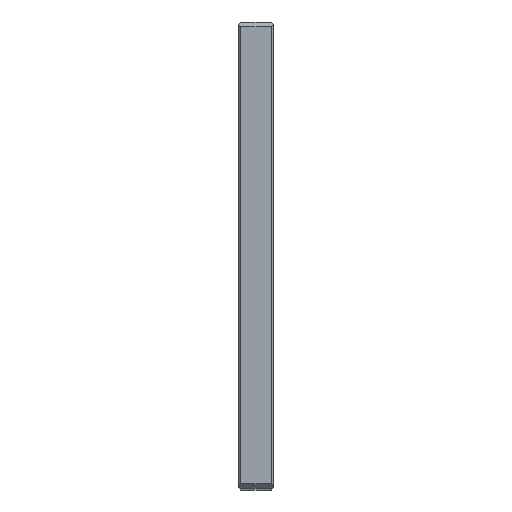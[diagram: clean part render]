
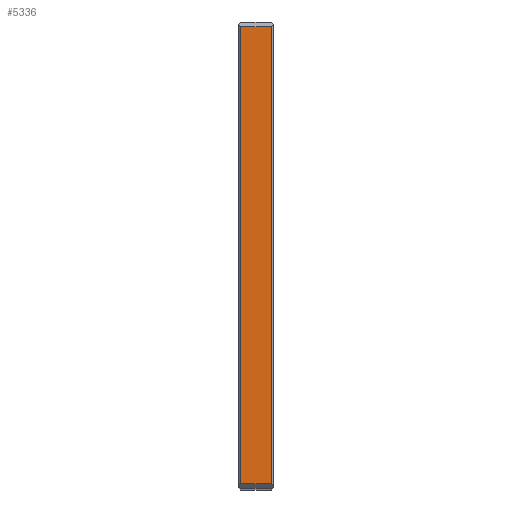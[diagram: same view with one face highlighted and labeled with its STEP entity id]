
A CAD part, top view. The second image highlights one B-rep face of the part: STEP entity #5336.
In plain terms, the highlighted planar face has unit normal (0, 0, 1).
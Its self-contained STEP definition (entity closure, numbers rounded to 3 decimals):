
#1570=FACE_OUTER_BOUND($,#2233,.T.);
#2233=EDGE_LOOP($,(#4507,#4508,#4509,#4510));
#3016=LINE($,#8549,#3056);
#3024=LINE($,#8822,#3064);
#3029=LINE($,#8832,#3069);
#3047=LINE($,#9124,#3087);
#3056=VECTOR($,#6662,13.);
#3064=VECTOR($,#6932,196.);
#3069=VECTOR($,#6939,13.);
#3087=VECTOR($,#7231,196.);
#3095=VERTEX_POINT($,#8546);
#3096=VERTEX_POINT($,#8548);
#3230=VERTEX_POINT($,#8820);
#3234=VERTEX_POINT($,#8830);
#3636=EDGE_CURVE($,#3095,#3096,#3016,.T.);
#3773=EDGE_CURVE($,#3230,#3095,#3024,.T.);
#3778=EDGE_CURVE($,#3234,#3230,#3029,.T.);
#3925=EDGE_CURVE($,#3096,#3234,#3047,.T.);
#4507=ORIENTED_EDGE($,*,*,#3773,.F.);
#4508=ORIENTED_EDGE($,*,*,#3778,.F.);
#4509=ORIENTED_EDGE($,*,*,#3925,.F.);
#4510=ORIENTED_EDGE($,*,*,#3636,.F.);
#5313=PLANE($,#6002);
#5336=ADVANCED_FACE($,(#1570),#5313,.T.);
#6002=AXIS2_PLACEMENT_3D($,#9129,#7236,#7237);
#6662=DIRECTION($,(1.,0.,0.));
#6932=DIRECTION($,(0.,1.,0.));
#6939=DIRECTION($,(-1.,0.,0.));
#7231=DIRECTION($,(0.,-1.,0.));
#7236=DIRECTION('center_axis',(0.,0.,1.));
#7237=DIRECTION('ref_axis',(0.,-1.,0.));
#8546=CARTESIAN_POINT('',(1.,198.,400.));
#8548=CARTESIAN_POINT('',(14.,198.,400.));
#8549=CARTESIAN_POINT($,(0.,198.,400.));
#8820=CARTESIAN_POINT('',(1.,2.,400.));
#8822=CARTESIAN_POINT($,(1.,150.,400.));
#8830=CARTESIAN_POINT('',(14.,2.,400.));
#8832=CARTESIAN_POINT($,(0.,2.,400.));
#9124=CARTESIAN_POINT($,(14.,150.,400.));
#9129=CARTESIAN_POINT('Origin',(0.,200.,400.));
